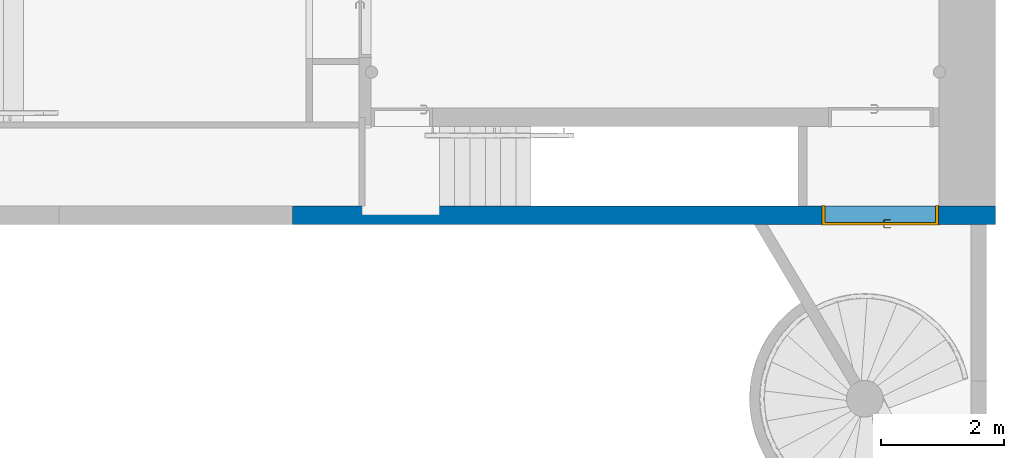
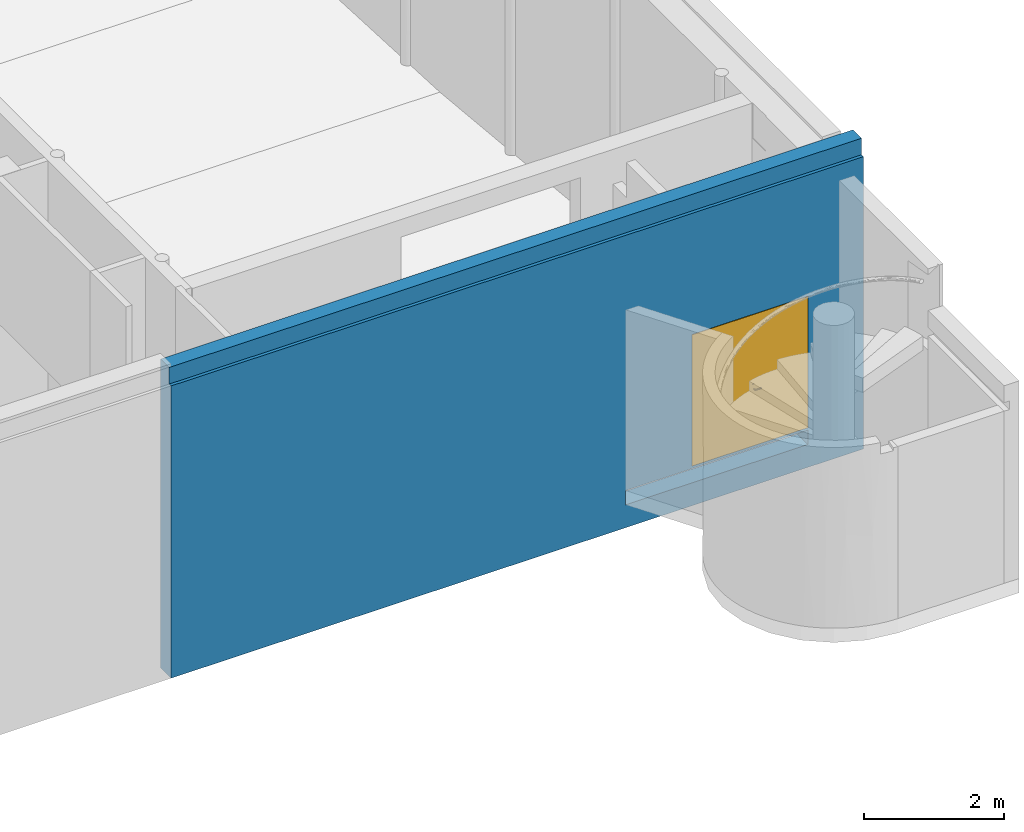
# One storey, part 22 of 39: 1 door, 1 wall, 3 openings.
"""IFC4 building model written with IfcOpenShell, lengths in metres."""

from ifc_helpers import new_model, entity, si_unit, converted_unit, derived_unit, direction, frame, origin, place, context, subcontext, project, spatial, indexed_curve, outline, extrude, polygons, source, transform, mapped, material, material_list, layer, layer_set, constituent, constituent_set, type_object, type_shapes, element, fill, save


model = new_model("IFC4")

# Units and contexts
model_context = context("Model", 3, precision=1e-05, world=origin(), true_north=direction((6.12303176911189e-17, 1.0)))
body_context = subcontext(model_context, "Body", "Model", "MODEL_VIEW")
ifc_project = project(units=[si_unit("LENGTHUNIT", "METRE"), si_unit("AREAUNIT", "SQUARE_METRE"), si_unit("VOLUMEUNIT", "CUBIC_METRE"), converted_unit("PLANEANGLEUNIT", "DEGREE", entity("IfcRatioMeasure", 0.0174532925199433), si_unit("PLANEANGLEUNIT", "RADIAN"), dimensions=[0, 0, 0, 0, 0, 0, 0]), si_unit("MASSUNIT", "GRAM", prefix="KILO"), derived_unit("MASSDENSITYUNIT", [(si_unit("MASSUNIT", "GRAM", prefix="KILO"), 1), (si_unit("LENGTHUNIT", "METRE"), -3)]), derived_unit("MOMENTOFINERTIAUNIT", [(si_unit("LENGTHUNIT", "METRE"), 4)]), si_unit("TIMEUNIT", "SECOND"), si_unit("FREQUENCYUNIT", "HERTZ"), si_unit("THERMODYNAMICTEMPERATUREUNIT", "DEGREE_CELSIUS"), derived_unit("THERMALTRANSMITTANCEUNIT", [(si_unit("MASSUNIT", "GRAM", prefix="KILO"), 1), (si_unit("THERMODYNAMICTEMPERATUREUNIT", "KELVIN"), -1), (si_unit("TIMEUNIT", "SECOND"), -3)]), derived_unit("VOLUMETRICFLOWRATEUNIT", [(si_unit("LENGTHUNIT", "METRE"), 3), (si_unit("TIMEUNIT", "SECOND"), -1)]), si_unit("ELECTRICCURRENTUNIT", "AMPERE"), si_unit("ELECTRICVOLTAGEUNIT", "VOLT"), si_unit("POWERUNIT", "WATT"), si_unit("FORCEUNIT", "NEWTON", prefix="KILO"), si_unit("ILLUMINANCEUNIT", "LUX"), si_unit("LUMINOUSFLUXUNIT", "LUMEN"), si_unit("LUMINOUSINTENSITYUNIT", "CANDELA"), derived_unit("USERDEFINED", [(si_unit("MASSUNIT", "GRAM", prefix="KILO"), -1), (si_unit("LENGTHUNIT", "METRE"), -2), (si_unit("TIMEUNIT", "SECOND"), 3), (si_unit("LUMINOUSFLUXUNIT", "LUMEN"), 1)]), derived_unit("LINEARVELOCITYUNIT", [(si_unit("LENGTHUNIT", "METRE"), 1), (si_unit("TIMEUNIT", "SECOND"), -1)]), si_unit("PRESSUREUNIT", "PASCAL"), derived_unit("USERDEFINED", [(si_unit("LENGTHUNIT", "METRE"), -2), (si_unit("MASSUNIT", "GRAM", prefix="KILO"), 1), (si_unit("TIMEUNIT", "SECOND"), -2)]), derived_unit("LINEARFORCEUNIT", [(si_unit("MASSUNIT", "GRAM", prefix="KILO"), 1), (si_unit("LENGTHUNIT", "METRE"), 1), (si_unit("TIMEUNIT", "SECOND"), -2), (si_unit("LENGTHUNIT", "METRE"), -1)]), derived_unit("PLANARFORCEUNIT", [(si_unit("MASSUNIT", "GRAM", prefix="KILO"), 1), (si_unit("LENGTHUNIT", "METRE"), 1), (si_unit("TIMEUNIT", "SECOND"), -2), (si_unit("LENGTHUNIT", "METRE"), -2)])], contexts=[model_context])

# Site, building, storey
site_placement = place(None, origin())
site = spatial("IfcSite", under=ifc_project, at=site_placement, Name="Default", CompositionType="ELEMENT")
building_placement = place(site_placement, origin())
building = spatial("IfcBuilding", under=site, at=building_placement, Name="HOTEL CONSULAIRE BOULOGNE SUR MER", CompositionType="ELEMENT")
storey_placement = place(building_placement, frame((0.0, 0.0, -5.02343668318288)))
storey = spatial("IfcBuildingStorey", under=building, at=storey_placement, Name="SS3", CompositionType="ELEMENT", Elevation=-5.02343668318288)

# Wall, openings, door
ifc_material_1 = material(Name="Mur par défaut", Category="Divers")
ifc_layer = layer(ifc_material_1, 0.3, Name="Mur par défaut", Category="Divers")
ifc_layer_set = layer_set([ifc_layer], Name="Mur de base:Générique - Ext. 300 mm")
wall_type = type_object("IfcWallType", Name="Mur de base:Générique - Ext. 300 mm", PredefinedType="NOTDEFINED", material=ifc_layer_set)
wall_placement = place(storey_placement, frame((11.0822268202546, -29.4680671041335, -0.649999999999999)))
wall = element("IfcWall", 1, at=wall_placement, inside=storey, type_object=wall_type, material=ifc_layer_set, Name="Mur de base:Générique - Ext. 300 mm", ObjectType="Mur de base:Générique - Ext. 300 mm", PredefinedType="NOTDEFINED", context=body_context, shape_type="Tessellation", body=[
    polygons([(1.35590975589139e-15, -0.150000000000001, 0.0), (11.4578336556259, -0.150000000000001, 0.0), (11.4578336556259, -0.150000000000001, 5.1134366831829), (1.35590975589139e-15, -0.150000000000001, 5.1134366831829), (10.5298336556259, -0.150000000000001, 0.699999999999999), (8.62983365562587, -0.150000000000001, 0.699999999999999), (8.62983365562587, -0.150000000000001, 2.98500000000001), (10.5298336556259, -0.150000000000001, 2.98500000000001), (10.5378336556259, -0.150000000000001, 0.4), (7.52303644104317, -0.150000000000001, 0.4), (7.52303644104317, -0.150000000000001, 0.649999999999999), (7.73262015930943, -0.150000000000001, 0.649999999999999), (10.5378336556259, -0.150000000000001, 0.649999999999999), (11.4578336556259, 0.150000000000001, 0.0), (2.25752273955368e-15, 0.150000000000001, 0.0), (2.25752273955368e-15, 0.150000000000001, 5.4034366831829), (1.077, 0.150000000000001, 5.4034366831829), (1.177, 0.150000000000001, 5.4034366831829), (4.63767877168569, 0.150000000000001, 5.4034366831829), (4.72767877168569, 0.150000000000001, 5.4034366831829), (7.72112481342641, 0.150000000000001, 5.4034366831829), (7.81112481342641, 0.150000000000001, 5.4034366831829), (8.23471966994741, 0.150000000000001, 5.4034366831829), (8.38471966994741, 0.150000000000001, 5.4034366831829), (10.5378336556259, 0.150000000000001, 5.4034366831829), (10.9507091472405, 0.150000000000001, 5.4034366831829), (11.4578336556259, 0.150000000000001, 5.4034366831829), (11.4578336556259, 0.150000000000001, 5.1134366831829), (8.62983365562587, 0.150000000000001, 0.699999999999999), (10.5298336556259, 0.150000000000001, 0.699999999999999), (10.5298336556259, 0.150000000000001, 2.98500000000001), (8.62983365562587, 0.150000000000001, 2.98500000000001), (7.34410958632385, 0.150000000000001, 0.4), (8.23471966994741, 0.150000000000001, 0.4), (10.5378336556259, 0.150000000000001, 0.4), (10.5378336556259, 0.150000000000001, 0.649999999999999), (8.38471966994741, 0.150000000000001, 0.649999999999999), (8.23471966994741, 0.150000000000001, 0.649999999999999), (7.34410958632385, 0.150000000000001, 0.649999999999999), (1.127, 0.150000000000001, 0.469999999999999), (1.177, 0.150000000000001, 0.469999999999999), (2.39483365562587, 0.150000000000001, 0.469999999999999), (2.39483365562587, 0.150000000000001, 0.759999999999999), (1.177, 0.150000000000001, 0.759999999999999), (1.127, 0.150000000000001, 0.759999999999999), (1.1283679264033e-15, -0.0960000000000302, 5.4034366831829), (10.9507091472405, -0.0959999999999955, 5.4034366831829), (11.4578336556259, -0.0959999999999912, 5.4034366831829), (1.1283679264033e-15, -0.0960000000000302, 5.1134366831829), (11.4578336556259, -0.0959999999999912, 5.1134366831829), (1.127, 0.0, 0.469999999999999), (2.39483365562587, 0.0, 0.469999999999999), (2.39483365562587, 0.0, 0.759999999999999), (1.127, 0.0, 0.759999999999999)], [[[1, 2, 3, 4], [7, 8, 5, 6], [11, 12, 13, 9, 10]], [[49, 50, 48, 47, 46]], [[14, 15, 16, 17, 18, 19, 20, 21, 22, 23, 24, 25, 26, 27, 28], [36, 37, 38, 39, 33, 34, 35], [42, 43, 44, 45, 40, 41], [32, 29, 30, 31]], [[54, 53, 52, 51]], [[2, 1, 15, 14]], [[32, 31, 8, 7]], [[12, 11, 39, 38, 37, 36, 13]], [[44, 43, 53, 54, 45]], [[47, 48, 27, 26, 25, 24, 23, 22, 21, 20, 19, 18, 17, 16, 46]], [[30, 29, 6, 5]], [[4, 3, 50, 49]], [[34, 33, 10, 9, 35]], [[41, 40, 51, 52, 42]], [[49, 46, 16, 15, 1, 4]], [[31, 30, 5, 8]], [[13, 36, 35, 9]], [[53, 43, 42, 52]], [[50, 3, 2, 14, 28, 27, 48]], [[29, 32, 7, 6]], [[54, 51, 40, 45]], [[11, 10, 33, 39]]], closed=True),
])
opening_1_placement = place(storey_placement, frame((11.0822268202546, -29.4680671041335, -0.649999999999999)))
element("IfcOpeningElement", 2, at=opening_1_placement, cuts=wall, Name="Mur de base:Générique - Ext. 300 mm:1", ObjectType="Opening", PredefinedType="OPENING", context=body_context, shape_type="SweptSolid", body=[
    extrude(outline(indexed_curve([(-0.517133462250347, -0.0899999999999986), (0.750700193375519, -0.0899999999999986), (0.750700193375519, 0.0600000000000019), (-0.467133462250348, 0.0600000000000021), (-0.517133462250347, 0.0600000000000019), (-0.517133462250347, -0.0899999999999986)], self_intersect=False)), frame((1.64413346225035, 0.0899999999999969, 0.469999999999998)), (0.0, 0.0, 1.0), 0.29),
])
opening_2_placement = place(storey_placement, frame((11.0822268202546, -29.4680671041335, -0.649999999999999)))
element("IfcOpeningElement", 3, at=opening_2_placement, cuts=wall, Name="Mur de base:Générique - Ext. 300 mm:2", ObjectType="Opening", PredefinedType="OPENING", context=body_context, shape_type="SweptSolid", body=[
    extrude(outline(indexed_curve([(-0.867007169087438, -1.21941118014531), (-0.517700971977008, -1.21941118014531), (1.02658363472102, 1.36983336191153), (0.76893003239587, 1.523503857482), (-0.410805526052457, -0.454514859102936), (-0.867007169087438, -1.21941118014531)], self_intersect=False)), frame((8.83550660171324, 0.0299999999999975, 0.4), z_axis=(0.0, 0.0, 1.0), x_axis=(0.512234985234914, -0.858845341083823, 0.0)), (0.0, 0.0, 1.0), 0.249999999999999),
])
opening_3_placement = place(wall_placement, frame((10.5298336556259, 0.149999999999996, 0.699999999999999)))
opening_3 = element("IfcOpeningElement", 4, at=opening_3_placement, cuts=wall, Name="Double (R):1.83X2.25:1", ObjectType="Opening", PredefinedType="OPENING", context=body_context, shape_type="SweptSolid", body=[
    extrude(outline(indexed_curve([(0.0, -2.78052810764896e-30), (2.28500000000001, -2.78052810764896e-30), (2.28500000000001, 1.9), (0.0, 1.9), (0.0, -2.78052810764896e-30)], self_intersect=False)), frame((0.0, 0.0, 0.0), z_axis=(0.0, -1.0, 0.0), x_axis=(0.0, 0.0, 1.0)), (0.0, 0.0, 1.0), 0.3),
])
ifc_material_2 = material(Name="Porte - Poignée", Category="Métal")
ifc_constituent_1 = constituent(ifc_material_2, Name="Porte - Poignée", Category="Matériaux")
ifc_material_3 = material(Name="Porte - Cadre", Category="Peinture")
ifc_constituent_2 = constituent(ifc_material_3, Name="Porte - Cadre", Category="Matériaux")
ifc_material_4 = material(Name="Porte - Panneau", Category="Bois")
ifc_constituent_3 = constituent(ifc_material_4, Name="Porte - Panneau", Category="Matériaux")
ifc_constituent_set = constituent_set(constituents=[ifc_constituent_1, ifc_constituent_2, ifc_constituent_3], Name="MaterialConstituentSet")
ifc_material_list = material_list([ifc_material_3, ifc_material_2, ifc_material_4])
door_type = type_object("IfcDoorType", Name="Double (R):1.83X2.25", OperationType="DOUBLE_DOOR_SINGLE_SWING", PredefinedType="DOOR", material=ifc_material_list)
shared_shape = source(origin(), body_context, "Body", "Tessellation", [
    polygons([(1.01100000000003, 0.0369999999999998, 0.993000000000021), (1.01100000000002, 0.0369999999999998, 1.00699999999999), (1.00702529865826, 0.0369999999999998, 1.00778044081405), (1.00297470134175, 0.0369999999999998, 1.00778044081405), (0.998999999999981, 0.0369999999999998, 1.00699999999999), (0.998999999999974, 0.0369999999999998, 0.992999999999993), (1.00297470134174, 0.0369999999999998, 0.992219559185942), (1.00702529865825, 0.0369999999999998, 0.992219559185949), (1.01100000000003, 0.0594852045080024, 0.993000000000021), (1.01100000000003, 0.0594852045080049, 1.00699999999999), (1.00702529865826, 0.0611315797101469, 1.00778044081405), (1.00297470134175, 0.062809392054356, 1.00778044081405), (0.998999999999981, 0.0644557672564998, 1.00699999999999), (0.998999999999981, 0.0644557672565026, 0.992999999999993), (1.00297470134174, 0.0628093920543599, 0.992219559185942), (1.00702529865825, 0.0611315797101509, 0.992219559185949), (1.02248528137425, 0.0709704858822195, 0.993000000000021), (1.02248528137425, 0.0709704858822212, 1.00699999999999), (1.0208389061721, 0.0749451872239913, 1.00778044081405), (1.01916109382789, 0.0789957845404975, 1.00778044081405), (1.01751471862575, 0.0829704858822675, 1.00699999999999), (1.01751471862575, 0.0829704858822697, 0.992999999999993), (1.01916109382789, 0.078995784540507, 0.992219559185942), (1.0208389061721, 0.0749451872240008, 0.992219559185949), (1.1025605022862, 0.0709704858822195, 0.993000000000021), (1.10256050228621, 0.0709704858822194, 1.00699999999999), (1.10420687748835, 0.0749451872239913, 1.00778044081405), (1.10588468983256, 0.0789957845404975, 1.00778044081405), (1.1075310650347, 0.0829704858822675, 1.00699999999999), (1.06760057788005, 0.0829704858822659, 1.00699999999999), (1.0625228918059, 0.0771249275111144, 1.00787811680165), (1.06252289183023, 0.0709704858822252, 1.00699999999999), (1.1075310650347, 0.0829704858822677, 0.992999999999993), (1.10588468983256, 0.078995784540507, 0.992219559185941), (1.10420687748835, 0.0749451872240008, 0.992219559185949), (1.05744520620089, 0.0829704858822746, 0.992999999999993), (1.06252289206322, 0.0771249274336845, 0.992121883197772), (1.06252290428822, 0.0709704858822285, 0.993000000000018), (1.10787421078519, 0.0656567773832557, 0.993000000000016), (1.11068474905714, 0.0684673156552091, 0.992219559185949), (1.1135489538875, 0.0713315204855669, 0.992219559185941), (1.11635949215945, 0.0741420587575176, 0.992999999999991), (1.11635949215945, 0.074142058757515, 1.00699999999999), (1.1135489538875, 0.0713315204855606, 1.00778044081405), (1.11068474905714, 0.0684673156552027, 1.00778044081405), (1.10787421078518, 0.065656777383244, 1.00699999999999)], [[[4, 5, 6, 7, 8, 1, 2, 3]], [[18, 17, 38, 25, 26, 32]], [[2, 1, 9, 10]], [[10, 11, 3, 2]], [[11, 19, 20, 12, 4, 3]], [[45, 44, 28, 27]], [[12, 13, 5, 4]], [[6, 5, 13, 14]], [[14, 15, 7, 6]], [[15, 23, 24, 16, 8, 7]], [[41, 40, 35, 34]], [[16, 9, 1, 8]], [[10, 9, 17, 18]], [[39, 40, 41, 42, 43, 44, 45, 46]], [[18, 19, 11, 10]], [[20, 21, 13, 12]], [[14, 13, 21, 22]], [[22, 23, 15, 14]], [[24, 17, 9, 16]], [[19, 32, 31]], [[28, 29, 30]], [[21, 20, 30]], [[30, 20, 31]], [[31, 32, 27]], [[27, 28, 31]], [[32, 19, 18]], [[26, 27, 32]], [[19, 31, 20]], [[30, 31, 28]], [[22, 21, 30, 29, 33, 36]], [[36, 37, 23]], [[37, 36, 34]], [[23, 22, 36]], [[33, 34, 36]], [[37, 38, 24]], [[24, 23, 37]], [[35, 38, 37]], [[17, 24, 38]], [[38, 35, 25]], [[35, 37, 34]], [[26, 25, 39, 46]], [[46, 45, 27, 26]], [[44, 43, 29, 28]], [[33, 29, 43, 42]], [[42, 41, 34, 33]], [[40, 39, 25, 35]]], closed=True),
    polygons([(0.998999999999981, -0.0130000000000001, 1.00699999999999), (1.00297470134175, -0.0130000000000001, 1.00778044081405), (1.00702529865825, -0.0130000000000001, 1.00778044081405), (1.01100000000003, -0.0130000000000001, 1.00699999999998), (1.01100000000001, -0.0130000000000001, 0.993000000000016), (1.00702529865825, -0.0130000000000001, 0.992219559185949), (1.00297470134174, -0.0130000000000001, 0.992219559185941), (0.998999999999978, -0.0130000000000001, 0.992999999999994), (0.998999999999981, -0.0406509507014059, 1.00699999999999), (1.00297470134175, -0.0390045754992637, 1.00778044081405), (1.00702529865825, -0.0373267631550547, 1.00778044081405), (1.01100000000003, -0.0356803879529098, 1.00699999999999), (1.01100000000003, -0.0356803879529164, 0.993000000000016), (1.00702529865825, -0.037326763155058, 0.992219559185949), (1.00297470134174, -0.039004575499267, 0.992219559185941), (0.998999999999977, -0.0406509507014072, 0.992999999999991), (1.01737720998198, -0.0590281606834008, 1.00699999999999), (1.01902358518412, -0.0550534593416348, 1.00778044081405), (1.02070139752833, -0.0510028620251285, 1.00778044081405), (1.02234777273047, -0.0470281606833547, 1.00699999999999), (1.02234777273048, -0.0470281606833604, 0.993000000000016), (1.02070139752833, -0.0510028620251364, 0.992219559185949), (1.01902358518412, -0.0550534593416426, 0.992219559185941), (1.01737720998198, -0.0590281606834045, 0.992999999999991), (1.10750392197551, -0.0590281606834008, 1.00699999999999), (1.10585754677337, -0.0550534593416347, 1.00778044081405), (1.10417973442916, -0.0510028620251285, 1.00778044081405), (1.10253335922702, -0.0470281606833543, 1.00699999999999), (1.05730769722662, -0.0590281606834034, 1.00699999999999), (1.06244056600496, -0.0531828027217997, 1.00787811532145), (1.06244056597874, -0.0470281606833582, 1.00699999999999), (1.10253335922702, -0.0470281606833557, 0.993000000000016), (1.10417973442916, -0.0510028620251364, 0.992219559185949), (1.10585754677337, -0.0550534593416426, 0.992219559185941), (1.10750392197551, -0.0590281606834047, 0.992999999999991), (1.06757343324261, -0.0590281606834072, 0.992999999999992), (1.06244056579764, -0.0531828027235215, 0.992121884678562), (1.06244056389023, -0.0470281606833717, 0.993000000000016), (1.11633234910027, -0.0501997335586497, 1.00699999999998), (1.11633234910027, -0.0501997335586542, 0.992999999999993), (1.11352181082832, -0.0473891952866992, 0.992219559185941), (1.11065760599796, -0.0445249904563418, 0.992219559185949), (1.10784706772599, -0.0417144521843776, 0.993000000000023), (1.107847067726, -0.041714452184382, 1.00699999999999), (1.11065760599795, -0.044524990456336, 1.00778044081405), (1.11352181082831, -0.0473891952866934, 1.00778044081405)], [[[2, 3, 4, 5, 6, 7, 8, 1]], [[21, 20, 31, 28, 32, 38]], [[9, 10, 2, 1]], [[10, 18, 19, 11, 3, 2]], [[46, 45, 27, 26]], [[11, 12, 4, 3]], [[5, 4, 12, 13]], [[13, 14, 6, 5]], [[14, 22, 23, 15, 7, 6]], [[42, 41, 34, 33]], [[15, 16, 8, 7]], [[1, 8, 16, 9]], [[17, 18, 10, 9]], [[19, 20, 12, 11]], [[13, 12, 20, 21]], [[44, 45, 46, 39, 40, 41, 42, 43]], [[21, 22, 14, 13]], [[23, 24, 16, 15]], [[9, 16, 24, 17]], [[29, 30, 18]], [[30, 29, 26]], [[18, 17, 29]], [[25, 26, 29]], [[30, 31, 19]], [[19, 18, 30]], [[27, 31, 30]], [[20, 19, 31]], [[31, 27, 28]], [[27, 30, 26]], [[22, 38, 37]], [[34, 35, 36]], [[24, 23, 36]], [[36, 23, 37]], [[37, 38, 33]], [[33, 34, 37]], [[38, 22, 21]], [[32, 33, 38]], [[22, 37, 23]], [[36, 37, 34]], [[17, 24, 36, 35, 25, 29]], [[39, 46, 26, 25]], [[45, 44, 28, 27]], [[32, 28, 44, 43]], [[43, 42, 33, 32]], [[41, 40, 35, 34]], [[25, 35, 40, 39]]], closed=True),
    polygons([(1.025, 0.0319999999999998, 1.08), (1.0153527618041, 0.0319999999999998, 1.08399601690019), (1.005, 0.0319999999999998, 1.08535898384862), (0.994647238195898, 0.0319999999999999, 1.08399601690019), (0.984999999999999, 0.0319999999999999, 1.08), (0.984999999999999, 0.0319999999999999, 0.870000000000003), (0.994647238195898, 0.0319999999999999, 0.866003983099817), (1.005, 0.0319999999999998, 0.864641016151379), (1.0153527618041, 0.0319999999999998, 0.866003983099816), (1.025, 0.0319999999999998, 0.870000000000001), (1.025, 0.0369999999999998, 1.08), (1.025, 0.0369999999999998, 0.870000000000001), (1.0153527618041, 0.0369999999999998, 0.866003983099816), (1.005, 0.0369999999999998, 0.864641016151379), (0.994647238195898, 0.0369999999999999, 0.866003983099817), (0.984999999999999, 0.0369999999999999, 0.870000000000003), (0.984999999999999, 0.0369999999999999, 1.08), (0.994647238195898, 0.0369999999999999, 1.08399601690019), (1.005, 0.0369999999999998, 1.08535898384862), (1.0153527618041, 0.0369999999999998, 1.08399601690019)], [[[9, 10, 1, 2, 3, 4, 5, 6, 7, 8]], [[20, 11, 12, 13, 14, 15, 16, 17, 18, 19]], [[11, 20, 2, 1]], [[2, 20, 19, 3]], [[19, 18, 4, 3]], [[18, 17, 5, 4]], [[6, 5, 17, 16]], [[16, 15, 7, 6]], [[7, 15, 14, 8]], [[14, 13, 9, 8]], [[13, 12, 10, 9]], [[1, 10, 12, 11]]], closed=True),
    polygons([(0.984999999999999, -0.0130000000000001, 0.870000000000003), (0.994647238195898, -0.0130000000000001, 0.866003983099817), (1.005, -0.0130000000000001, 0.864641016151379), (1.0153527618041, -0.0130000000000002, 0.866003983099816), (1.025, -0.0130000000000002, 0.870000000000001), (1.025, -0.0130000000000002, 1.08), (1.0153527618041, -0.0130000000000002, 1.08399601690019), (1.005, -0.0130000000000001, 1.08535898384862), (0.994647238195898, -0.0130000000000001, 1.08399601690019), (0.984999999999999, -0.0130000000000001, 1.08), (0.984999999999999, -0.00800000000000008, 0.870000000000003), (0.984999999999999, -0.00800000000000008, 1.08), (0.994647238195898, -0.00800000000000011, 1.08399601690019), (1.005, -0.00800000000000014, 1.08535898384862), (1.0153527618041, -0.00800000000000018, 1.08399601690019), (1.025, -0.00800000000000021, 1.08), (1.025, -0.00800000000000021, 0.870000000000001), (1.0153527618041, -0.00800000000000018, 0.866003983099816), (1.005, -0.00800000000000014, 0.864641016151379), (0.994647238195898, -0.00800000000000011, 0.866003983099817)], [[[4, 5, 6, 7, 8, 9, 10, 1, 2, 3]], [[15, 16, 17, 18, 19, 20, 11, 12, 13, 14]], [[11, 20, 2, 1]], [[2, 20, 19, 3]], [[19, 18, 4, 3]], [[18, 17, 5, 4]], [[6, 5, 17, 16]], [[16, 15, 7, 6]], [[7, 15, 14, 8]], [[14, 13, 9, 8]], [[13, 12, 10, 9]], [[1, 10, 12, 11]]], closed=True),
    polygons([(0.0, -3.38395977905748e-17, 0.0), (0.0, 0.300000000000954, 0.0), (-0.01, 0.300000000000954, 0.0), (-0.01, 0.308000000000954, 0.0), (0.0499999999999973, 0.308000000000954, 0.0), (0.0499999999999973, 0.032, 0.0), (0.0349999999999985, 0.032, 0.0), (0.0349999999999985, -0.00799999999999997, 0.0), (-0.01, -0.00799999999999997, 0.0), (-0.01, -3.38395977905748e-17, 0.0), (0.0, -3.38395977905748e-17, 2.28500000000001), (0.0, 0.300000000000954, 2.28500000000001), (1.9, 0.300000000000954, 2.28500000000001), (1.9, 0.300000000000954, 0.0), (1.91, 0.300000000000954, -4.03399441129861e-24), (1.91, 0.300000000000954, 2.29500000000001), (-0.01, 0.300000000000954, 2.29500000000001), (-0.01, 0.308000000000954, 2.29500000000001), (1.91, 0.308000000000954, 2.29500000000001), (1.91, 0.308000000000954, 0.0), (1.85, 0.308000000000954, 4.03399441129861e-24), (1.85, 0.308000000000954, 2.23500000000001), (0.0499999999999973, 0.308000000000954, 2.23500000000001), (0.0499999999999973, 0.032, 2.23500000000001), (1.85, 0.032, 2.23500000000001), (1.85, 0.032, -4.03399441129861e-24), (1.865, 0.032, 4.03399441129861e-24), (1.865, 0.032, 2.25000000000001), (0.0349999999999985, 0.032, 2.25000000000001), (0.0349999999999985, -0.00799999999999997, 2.25000000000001), (1.865, -0.00799999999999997, 2.25000000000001), (1.865, -0.00799999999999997, -4.03399441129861e-24), (1.91, -0.00799999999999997, -4.03399441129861e-24), (1.91, -0.00799999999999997, 2.29500000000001), (-0.01, -0.00799999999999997, 2.29500000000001), (-0.01, -3.38395977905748e-17, 2.29500000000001), (1.91, -3.38395977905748e-17, 2.29500000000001), (1.91, -3.38395977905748e-17, 0.0), (1.9, -3.38395977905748e-17, 0.0), (1.9, -3.38395977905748e-17, 2.28500000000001)], [[[2, 3, 4, 5, 6, 7, 8, 9, 10, 1]], [[20, 15, 14, 39, 38, 33, 32, 27, 26, 21]], [[24, 23, 22, 25]], [[30, 29, 28, 31]], [[2, 1, 11, 12]], [[4, 3, 17, 18]], [[10, 9, 35, 36]], [[25, 22, 21, 26]], [[31, 28, 27, 32]], [[14, 15, 16, 17, 3, 2, 12, 13]], [[26, 27, 28, 29, 7, 6, 24, 25]], [[32, 33, 34, 35, 9, 8, 30, 31]], [[5, 4, 18, 19, 20, 21, 22, 23]], [[1, 10, 36, 37, 38, 39, 40, 11]], [[6, 5, 23, 24]], [[8, 7, 29, 30]], [[13, 40, 39, 14]], [[19, 16, 15, 20]], [[37, 34, 33, 38]], [[12, 11, 40, 13]], [[18, 17, 16, 19]], [[36, 35, 34, 37]]], closed=True),
    polygons([(1.865, -0.00799999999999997, 0.0), (1.865, -0.00799999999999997, 2.25000000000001), (0.949999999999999, -0.00799999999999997, 2.25000000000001), (0.949999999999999, -0.00799999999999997, 0.0), (1.865, 0.032, 0.0), (0.949999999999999, 0.032, 0.0), (0.949999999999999, 0.032, 2.25000000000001), (1.865, 0.032, 2.25000000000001)], [[[4, 1, 2, 3]], [[7, 8, 5, 6]], [[2, 1, 5, 8]], [[3, 2, 8, 7]], [[4, 3, 7, 6]], [[1, 4, 6, 5]]], closed=True),
    polygons([(0.0349999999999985, -0.00799999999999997, 2.25000000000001), (0.0349999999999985, -0.00799999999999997, 0.0), (0.949999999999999, -0.00799999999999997, 0.0), (0.949999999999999, -0.00799999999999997, 2.25000000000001), (0.0349999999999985, 0.032, 2.25000000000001), (0.949999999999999, 0.032, 2.25000000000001), (0.949999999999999, 0.032, 0.0), (0.0349999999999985, 0.032, 0.0)], [[[4, 1, 2, 3]], [[7, 8, 5, 6]], [[2, 1, 5, 8]], [[3, 2, 8, 7]], [[4, 3, 7, 6]], [[1, 4, 6, 5]]], closed=True),
])
type_shapes(door_type, [shared_shape])
door_placement = place(opening_3_placement, frame((-1.9, -0.300000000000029, 0.0)))
door = element("IfcDoor", 5, at=door_placement, inside=storey, type_object=door_type, material=ifc_constituent_set, Name="Double (R):1.83X2.25", ObjectType="Double (R):1.83X2.25", OperationType="DOUBLE_DOOR_SINGLE_SWING", OverallHeight=2.28500000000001, OverallWidth=1.9, PredefinedType="DOOR", context=body_context, shape_type="MappedRepresentation", body=[
    mapped(shared_shape, transform((0.0, 0.0, 0.0), scale=1.0)),
])
fill(opening_3, door)

save(model, "model.ifc")
